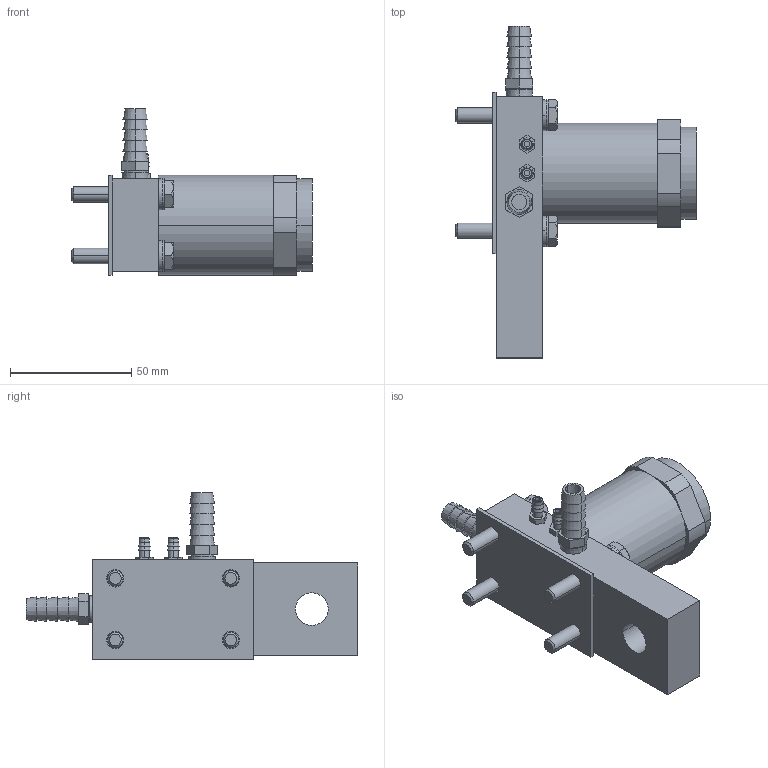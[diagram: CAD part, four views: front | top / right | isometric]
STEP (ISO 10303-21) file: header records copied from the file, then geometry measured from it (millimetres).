
FILE_DESCRIPTION((''),'2;1');
FILE_NAME('UHR4_ASM','2017-08-24T',('jennifer.elliott'),('CenterLine (Windsor) Ltd - Automation Components Division'),'PRO/ENGINEER BY PARAMETRIC TECHNOLOGY CORPORATION, 2015030','PRO/ENGINEER BY PARAMETRIC TECHNOLOGY CORPORATION, 2015030','');
FILE_SCHEMA(('AUTOMOTIVE_DESIGN { 1 0 10303 214 1 1 1 1 }'));
Length unit declared in the file: inch
Products named in the file (22): PRT0296; PRT0297; PRT0298; PRT0299; PRT0300; PRT0301; PRT0302; PRT0303; PRT0304; PRT0305; PRT0306; PRT0307; PRT0308; PRT0309; PRT0310; PRT0311; PRT0312; PRT0313; PRT0314; PRT0315; PRT0316; UHR4_ASM
Assembly tree (21 placements, depth 2):
  UHR4_ASM
    PRT0296
    PRT0297
    PRT0298
    PRT0299
    PRT0300
    PRT0301
    PRT0302
    PRT0303
    PRT0304
    PRT0305
    PRT0306
    PRT0307
    PRT0308
    PRT0309
    PRT0310
    PRT0311
    PRT0312
    PRT0313
    PRT0314
    PRT0315
    PRT0316
Bounding box: 99.25 x 136.91 x 68.64 mm (x, y, z)
Volume: 170883.1 mm3; surface area: 50555.8 mm2
Topology: 21 solids, 21 shells, 300 faces, 662 edges, 432 vertices
Faces by surface type: plane 132, cylinder 96, cone 64, torus 8
Entity records: 10010 total; most frequent: CARTESIAN_POINT 1753, DIRECTION 1616, ORIENTED_EDGE 1324, EDGE_CURVE 662, AXIS2_PLACEMENT_3D 659, VERTEX_POINT 432, EDGE_LOOP 370, CIRCLE 316
